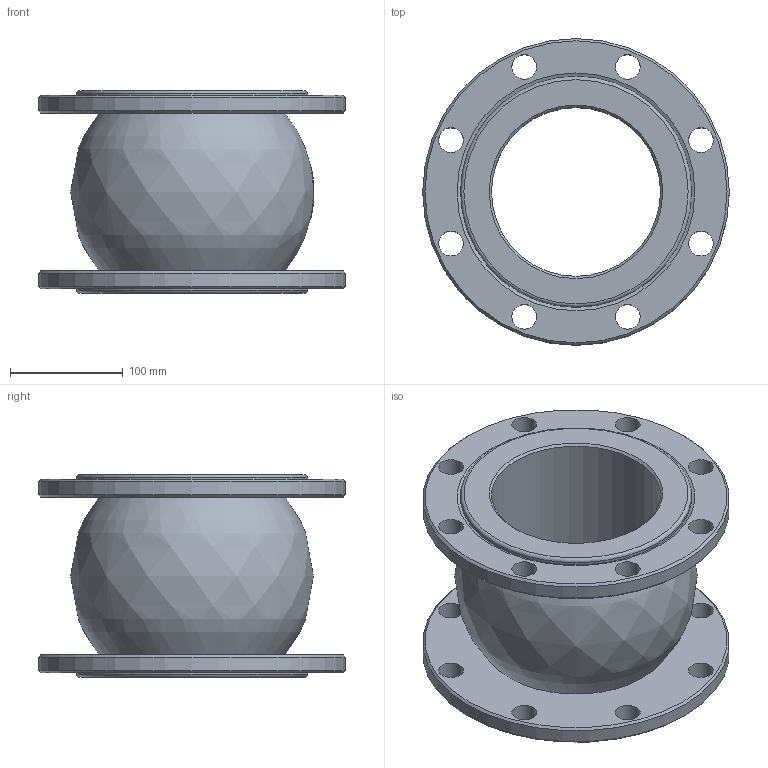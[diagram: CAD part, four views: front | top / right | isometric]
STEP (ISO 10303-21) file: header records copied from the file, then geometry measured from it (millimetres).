
FILE_DESCRIPTION(/* description */ ('D140-02167','CAx-IF Rec.Pracs.---Representation and Presentation of Product Manufacturing Information (PMI)---4.0---2014-10-13'),/* implementation_level */ '2;1');
FILE_NAME(/* name */ '',/* time_stamp */ '2026-04-30T11:03:51+03:00',/* author */ ('DN.RU'),/* organization */ ('DN.RU'),/* preprocessor_version */ 'ST-DEVELOPER v20',/* originating_system */ 'Autodesk Inventor 2025',/* authorisation */ '');
FILE_SCHEMA (('AP242_MANAGED_MODEL_BASED_3D_ENGINEERING_MIM_LF { 1 0 10303 442 1 1 4 }'));
Length unit declared in the file: millimetre
Products named in the file (1): CR-E25-F
Bounding box: 272 x 272 x 180 mm (x, y, z)
Volume: 3225657.8 mm3; surface area: 367768.2 mm2
Topology: 1 solids, 1 shells, 107 faces, 288 edges, 190 vertices
Faces by surface type: plane 43, bspline 34, cylinder 21, cone 7, torus 2
Full cylindrical faces by diameter (mm): 22 x16, 150 x1, 205 x2, 272 x2
Entity records: 4493 total; most frequent: CARTESIAN_POINT 1602, ORIENTED_EDGE 576, DIRECTION 534, EDGE_CURVE 288, AXIS2_PLACEMENT_3D 223, VERTEX_POINT 190, EDGE_LOOP 148, CIRCLE 136
